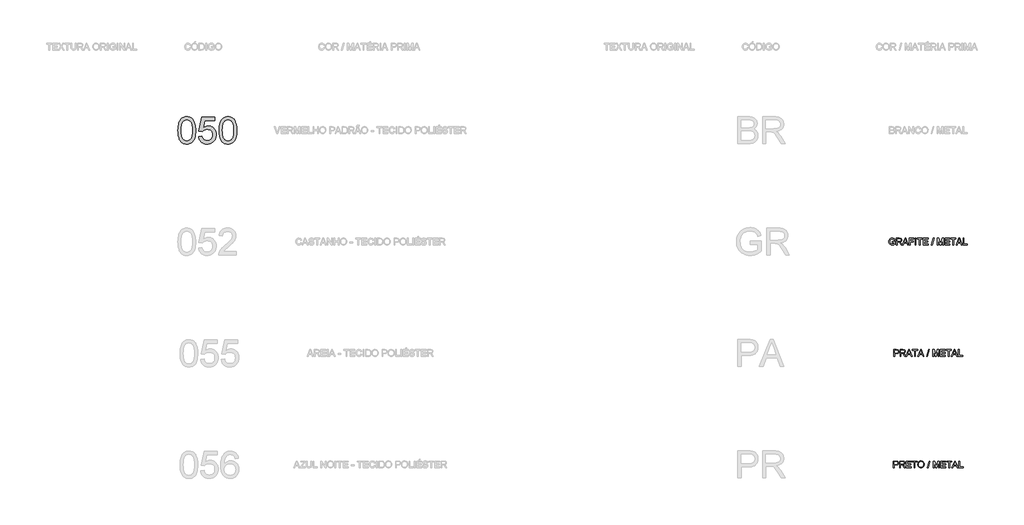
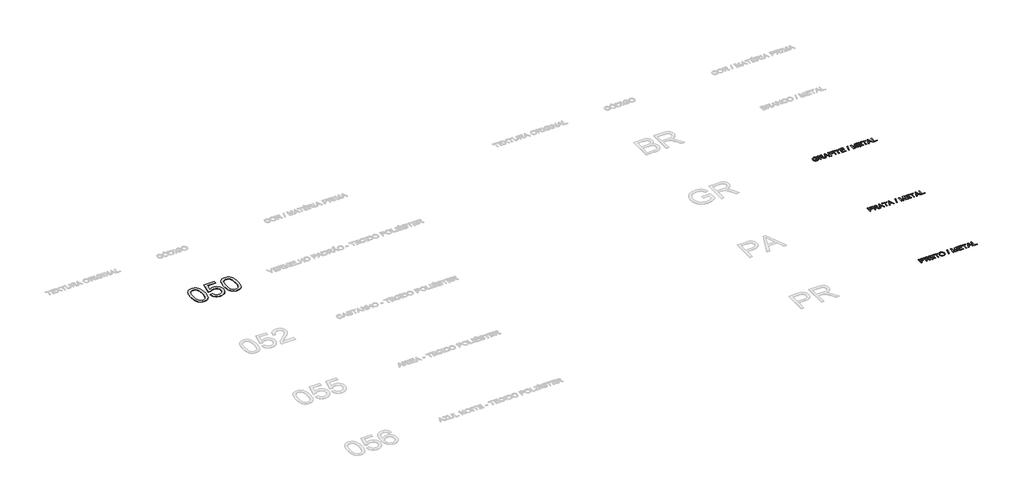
# One storey, part 53 of 67: 4 proxies.
"""IFC4 building model written with IfcOpenShell, lengths in millimetres."""

from ifc_helpers import new_model, si_unit, origin, origin_with_axes, place, context, project, spatial, polyline, outline, extrude, element, save

model = new_model("IFC4")

# Units and contexts
model_context = context("Model", 3, world=origin())
ifc_project = project(units=[si_unit("LENGTHUNIT", "METRE", prefix="MILLI")], contexts=[model_context])

# Site, building, storey
site = spatial("IfcSite", under=ifc_project)
building = spatial("IfcBuilding", under=site)
storey = spatial("IfcBuildingStorey", under=building, Name="Marelli - Linha COLAB - Planta Baixa", Elevation=0.0)

# Proxies
placement = place(None, origin())
element("IfcBuildingElementProxy", 1, Name="1200mm Arial", ObjectType="1200mm Arial", at=placement, inside=storey, context=model_context, shape_type="SweptSolid", body=[
    extrude(outline(polyline([(-228.2202746, -27387.5405438), (-225.4519626, -27286.1798571), (-217.1470265, -27194.5864374), (-203.3054665, -27112.7602846), (-183.9272824, -27040.7013988), (-159.0952477, -26977.8211688), (-128.8921359, -26923.5309833), (-93.317947, -26877.8308425), (-52.3726809, -26840.7207462), (-5.918382, -26812.0075565), (46.1829056, -26791.4981353), (103.9311818, -26779.1924825), (167.3264466, -26775.0905983), (214.967165, -26777.5186194), (260.1798622, -26784.8026829), (302.9645382, -26796.9427888), (343.3211931, -26813.938937), (380.2749395, -26835.5060189), (412.8508902, -26861.3589261), (441.0490451, -26891.4976586), (464.8694043, -26925.9222163), (485.5075843, -26964.4946435), (504.1592014, -27007.0769844), (535.5027474, -27104.2714076), (547.4773063, -27161.4310726), (556.0305627, -27227.6958169), (561.1625166, -27303.0656407), (562.8731678, -27387.5405438), (560.132447, -27488.2574371), (551.9102844, -27579.3910043), (538.2066801, -27660.9412456), (519.021634, -27732.9081609), (494.3827374, -27795.8159821), (464.3175813, -27850.188941), (428.8261658, -27896.0270376), (387.9084909, -27933.3302719), (341.3990097, -27962.2365997), (289.1321752, -27982.8839766), (231.1079875, -27995.2724028), (167.3264466, -27999.4018782), (124.6521352, -27997.6084535), (84.3322685, -27992.2281793), (46.3668466, -27983.2610557), (10.7558695, -27970.7070826), (-22.5006629, -27954.5662601), (-53.4027505, -27934.8385881), (-81.9503933, -27911.5240666), (-108.1435914, -27884.6226957), (-136.286564, -27842.0265592), (-160.6771403, -27793.8478134), (-181.3153202, -27740.0864583), (-198.2011038, -27680.742494), (-211.334491, -27615.8159204), (-220.7154819, -27545.3067375), (-226.3440764, -27469.2149453), (-228.2202746, -27387.5405438)]), holes=[polyline([(-77.5358094, -27387.2462382), (-73.1212254, -27518.2398197), (-59.8774736, -27624.2726077), (-49.9446597, -27667.9287043), (-37.8045539, -27705.3446024), (-23.4571561, -27736.5203023), (-6.9024663, -27761.4558037), (30.4743444, -27799.6327578), (71.9714335, -27826.9020107), (117.5888009, -27843.2635624), (167.3264466, -27848.717413), (217.0640924, -27843.2451683), (262.6814598, -27826.8284343), (304.1785488, -27799.4672109), (341.5553595, -27761.1614981), (358.1100493, -27736.1662158), (372.4574471, -27704.9583263), (384.597553, -27667.5378296), (394.5303668, -27623.9047257), (407.7741187, -27518.0006964), (412.1887026, -27387.2462382), (407.9212715, -27259.7199446), (395.118978, -27155.5541577), (385.517258, -27112.2314542), (373.7818223, -27074.7488774), (359.9126711, -27043.1064273), (343.9098043, -27017.3041039), (307.158393, -26977.2601487), (265.1830573, -26948.6573236), (217.9837974, -26931.4956285), (165.5606131, -26925.7750635), (116.0804847, -26930.8150468), (71.2356695, -26945.9349968), (31.0261674, -26971.1349135), (-4.5480215, -27006.4147968), (-21.6545343, -27034.9624397), (-36.4801787, -27068.954736), (-49.0249547, -27108.3916859), (-59.2888624, -27153.2732893), (-72.9740726, -27259.3704567), (-77.5358094, -27387.2462382)])]), origin_with_axes(), (0.0, 0.0, 1.0), 10.0),
    extrude(outline(polyline([(694.7220749, -27660.3618315), (845.4065401, -27641.5262733), (856.6637292, -27689.967135), (873.0712662, -27731.9884559), (894.6291511, -27767.590236), (921.3373839, -27796.7724753), (953.1407824, -27819.4983855), (989.9841642, -27835.7311786), (1031.8675294, -27845.4708544), (1078.7908779, -27848.717413), (1136.1804691, -27844.2016615), (1186.8010317, -27830.654407), (1230.6525655, -27808.0756496), (1267.7350706, -27776.4653891), (1297.2208125, -27737.3871242), (1318.2820567, -27692.4043532), (1330.9188033, -27641.5170763), (1335.1310521, -27584.7252933), (1331.1855177, -27531.0513102), (1319.3489145, -27483.3370154), (1299.6212425, -27441.5824089), (1272.0025017, -27405.7874908), (1236.4007217, -27377.0743011), (1192.7239318, -27356.5648798), (1140.9721321, -27344.2592271), (1081.1453226, -27340.1573429), (1042.858004, -27341.7944177), (1008.0471702, -27346.7056424), (976.7128213, -27354.8910168), (948.8549572, -27366.3505409), (901.5821208, -27396.4432881), (864.2420983, -27434.3351336), (713.5576331, -27415.4995755), (845.4065401, -26793.9261564), (1429.3088429, -26793.9261564), (1429.3088429, -26944.6106217), (967.2490569, -26944.6106217), (902.7961314, -27276.5873341), (955.9734738, -27238.4747594), (1010.4384032, -27211.2514918), (1066.1909195, -27194.9175312), (1123.2310229, -27189.4728776), (1160.6699137, -27191.1605363), (1196.6142839, -27196.2235123), (1231.0641335, -27204.6618055), (1264.0194624, -27216.4754161), (1295.4802708, -27231.664344), (1325.4465586, -27250.2285891), (1353.9183258, -27272.1681516), (1380.8955723, -27297.4830314), (1405.4861844, -27325.4512601), (1426.7980483, -27355.3508693), (1444.8311638, -27387.1818589), (1459.5855311, -27420.944229), (1471.0611501, -27456.6379796), (1479.2580208, -27494.2631106), (1484.1761432, -27533.8196222), (1485.8155173, -27575.3075142), (1479.9110113, -27653.3720736), (1472.5303788, -27690.3626082), (1462.1974933, -27725.9919794), (1448.9123547, -27760.2601873), (1432.6749631, -27793.1672317), (1413.4853186, -27824.7131128), (1391.343421, -27854.8978305), (1361.3426443, -27888.7659667), (1328.7299054, -27918.1183514), (1293.5052044, -27942.9549846), (1255.6685412, -27963.2758663), (1215.2199158, -27979.0809965), (1172.1593283, -27990.3703752), (1126.4867786, -27997.1440025), (1078.2022667, -27999.4018782), (1000.44121, -27993.5985397), (964.3818766, -27986.3443667), (930.20334, -27976.1885243), (897.9056001, -27963.1310128), (867.4886569, -27947.171832), (838.9525104, -27928.3109819), (812.2971606, -27906.5484626), (787.9594673, -27882.3901119), (766.3762905, -27856.3417673), (747.5476302, -27828.4034291), (731.4734862, -27798.5750971), (718.1538587, -27766.8567713), (707.5887477, -27733.2484518), (694.7220749, -27660.3618315)])), origin_with_axes(), (0.0, 0.0, 1.0), 10.0),
    extrude(outline(polyline([(1617.6644244, -27387.5405438), (1620.4327364, -27286.1798571), (1628.7376725, -27194.5864374), (1642.5792325, -27112.7602846), (1661.9574166, -27040.7013988), (1686.7894513, -26977.8211688), (1716.9925631, -26923.5309833), (1752.566752, -26877.8308425), (1793.5120181, -26840.7207462), (1839.966317, -26812.0075565), (1892.0676046, -26791.4981353), (1949.8158808, -26779.1924825), (2013.2111456, -26775.0905983), (2060.851864, -26777.5186194), (2106.0645612, -26784.8026829), (2148.8492372, -26796.9427888), (2189.2058921, -26813.938937), (2226.1596385, -26835.5060189), (2258.7355892, -26861.3589261), (2286.9337441, -26891.4976586), (2310.7541033, -26925.9222163), (2331.3922833, -26964.4946435), (2350.0439004, -27007.0769844), (2381.3874464, -27104.2714076), (2393.3620053, -27161.4310726), (2401.9152617, -27227.6958169), (2407.0472156, -27303.0656407), (2408.7578668, -27387.5405438), (2406.017146, -27488.2574371), (2397.7949834, -27579.3910043), (2384.0913791, -27660.9412456), (2364.906333, -27732.9081609), (2340.2674364, -27795.8159821), (2310.2022803, -27850.188941), (2274.7108648, -27896.0270376), (2233.7931899, -27933.3302719), (2187.2837087, -27962.2365997), (2135.0168742, -27982.8839766), (2076.9926865, -27995.2724028), (2013.2111456, -27999.4018782), (1970.5368342, -27997.6084535), (1930.2169675, -27992.2281793), (1892.2515456, -27983.2610557), (1856.6405685, -27970.7070826), (1823.3840361, -27954.5662601), (1792.4819485, -27934.8385881), (1763.9343057, -27911.5240666), (1737.7411076, -27884.6226957), (1709.598135, -27842.0265592), (1685.2075587, -27793.8478134), (1664.5693788, -27740.0864583), (1647.6835952, -27680.742494), (1634.550208, -27615.8159204), (1625.1692171, -27545.3067375), (1619.5406226, -27469.2149453), (1617.6644244, -27387.5405438)]), holes=[polyline([(1768.3488896, -27387.2462382), (1772.7634736, -27518.2398197), (1786.0072254, -27624.2726077), (1795.9400393, -27667.9287043), (1808.0801451, -27705.3446024), (1822.4275429, -27736.5203023), (1838.9822327, -27761.4558037), (1876.3590434, -27799.6327578), (1917.8561325, -27826.9020107), (1963.4734999, -27843.2635624), (2013.2111456, -27848.717413), (2062.9487914, -27843.2451683), (2108.5661588, -27826.8284343), (2150.0632478, -27799.4672109), (2187.4400585, -27761.1614981), (2203.9947483, -27736.1662158), (2218.3421461, -27704.9583263), (2230.482252, -27667.5378296), (2240.4150658, -27623.9047257), (2253.6588177, -27518.0006964), (2258.0734016, -27387.2462382), (2253.8059705, -27259.7199446), (2241.003677, -27155.5541577), (2231.401957, -27112.2314542), (2219.6665213, -27074.7488774), (2205.7973701, -27043.1064273), (2189.7945033, -27017.3041039), (2153.043092, -26977.2601487), (2111.0677563, -26948.6573236), (2063.8684964, -26931.4956285), (2011.4453121, -26925.7750635), (1961.9651837, -26930.8150468), (1917.1203685, -26945.9349968), (1876.9108664, -26971.1349135), (1841.3366775, -27006.4147968), (1824.2301647, -27034.9624397), (1809.4045203, -27068.954736), (1796.8597443, -27108.3916859), (1786.5958366, -27153.2732893), (1772.9106264, -27259.3704567), (1768.3488896, -27387.2462382)])]), origin_with_axes(), (0.0, 0.0, 1.0), 10.0),
])
element("IfcBuildingElementProxy", 2, Name="300mm Arial", ObjectType="300mm Arial", at=placement, inside=storey, context=model_context, shape_type="SweptSolid", body=[
    extrude(outline(polyline([(31803.2452164, -32412.8440816), (31803.2452164, -32375.1729653), (31925.6763444, -32375.1729653), (31925.6763444, -32487.8184322), (31895.923888, -32508.5117945), (31865.2333325, -32523.355833), (31833.6782544, -32532.2953654), (31801.33223, -32535.2752096), (31759.0717858, -32530.5387289), (31720.8764376, -32516.3292869), (31689.1466156, -32493.1435241), (31666.2827496, -32461.4780814), (31652.4595836, -32423.4942654), (31647.8518616, -32381.3533828), (31652.4411895, -32338.9089976), (31666.2091732, -32299.4260625), (31688.5855955, -32266.3074859), (31719.0002395, -32242.9561762), (31756.0459564, -32229.1054191), (31798.3155976, -32224.4885001), (31829.3464439, -32227.1648416), (31857.2502932, -32235.1938661), (31880.7487557, -32247.9961596), (31898.5634413, -32264.9923077), (31911.7428138, -32287.0008481), (31921.3353368, -32314.8403181), (31886.6072765, -32324.6259792), (31878.8541634, -32304.7695485), (31869.4271873, -32289.7875542), (31856.9559877, -32278.493577), (31840.0702041, -32269.7011973), (31819.9378619, -32264.0450116), (31797.7269864, -32262.1596164), (31771.7269264, -32264.1921644), (31749.4976569, -32270.2898085), (31731.1219512, -32279.6891935), (31716.6825829, -32291.6269642), (31697.2952017, -32320.6528536), (31688.4660339, -32349.0901318), (31685.5229779, -32379.8082784), (31689.0638421, -32415.8331228), (31699.6864347, -32445.4752146), (31717.068859, -32468.5230216), (31740.8892182, -32484.7650117), (31768.7654764, -32494.3943229), (31798.3155976, -32497.6040933), (31824.4076281, -32495.1852692), (31849.8558651, -32487.9287968), (31871.956376, -32477.9316036), (31888.005228, -32467.2906169), (31888.005228, -32412.8440816), (31803.2452164, -32412.8440816)])), origin_with_axes(), (0.0, 0.0, 1.0), 10.0),
    extrude(outline(polyline([(31986.8919083, -32530.5663201), (31986.8919083, -32229.1973896), (32116.7542526, -32229.1973896), (32151.6570569, -32231.2299376), (32177.0501117, -32237.3275817), (32195.6097583, -32248.5847708), (32210.0123384, -32266.0959537), (32219.2553736, -32287.8101885), (32222.3363853, -32311.6765329), (32217.2320226, -32341.3646099), (32201.9189345, -32365.9759154), (32190.3191554, -32376.0052983), (32175.9372686, -32384.0205273), (32138.8271724, -32394.0085235), (32160.2379045, -32410.1217548), (32190.7721101, -32448.8965171), (32241.0247906, -32530.5663201), (32197.2468332, -32530.5663201), (32158.0306125, -32468.0999573), (32129.7036989, -32426.750021), (32109.8012829, -32407.2154871), (32091.8854298, -32400.0417882), (32070.0332393, -32398.717413), (32024.5630247, -32398.717413), (32024.5630247, -32530.5663201), (31986.8919083, -32530.5663201)]), holes=[polyline([(32024.5630247, -32361.0462967), (32108.8815779, -32361.0462967), (32133.0974103, -32359.7127245), (32151.8869832, -32355.7120078), (32166.0320459, -32348.7774322), (32176.3143477, -32338.6422832), (32182.5775386, -32326.3826157), (32184.665269, -32313.0744845), (32180.6829464, -32294.6987789), (32168.7359786, -32279.8915286), (32148.1805721, -32270.1242616), (32118.3729334, -32266.8685059), (32024.5630247, -32266.8685059), (32024.5630247, -32361.0462967)])]), origin_with_axes(), (0.0, 0.0, 1.0), 10.0),
    extrude(outline(polyline([(32253.1648965, -32530.5663201), (32373.4623089, -32229.1973896), (32405.5416189, -32229.1973896), (32525.8390313, -32530.5663201), (32486.0341994, -32530.5663201), (32451.5268683, -32436.3885293), (32327.4034831, -32436.3885293), (32292.9697283, -32530.5663201), (32253.1648965, -32530.5663201)]), holes=[polyline([(32341.2358461, -32398.717413), (32437.7680816, -32398.717413), (32410.6183904, -32324.6259792), (32389.5019639, -32266.8685059), (32370.7399821, -32318.1512561), (32341.2358461, -32398.717413)])]), origin_with_axes(), (0.0, 0.0, 1.0), 10.0),
    extrude(outline(polyline([(32566.0853216, -32530.5663201), (32566.0853216, -32229.1973896), (32768.5675717, -32229.1973896), (32768.5675717, -32266.8685059), (32603.7564379, -32266.8685059), (32603.7564379, -32356.3374072), (32745.023124, -32356.3374072), (32745.023124, -32394.0085235), (32603.7564379, -32394.0085235), (32603.7564379, -32530.5663201), (32566.0853216, -32530.5663201)])), origin_with_axes(), (0.0, 0.0, 1.0), 10.0),
    extrude(outline(polyline([(32825.0742462, -32530.5663201), (32825.0742462, -32229.1973896), (32862.7453625, -32229.1973896), (32862.7453625, -32530.5663201), (32825.0742462, -32530.5663201)])), origin_with_axes(), (0.0, 0.0, 1.0), 10.0),
    extrude(outline(polyline([(33013.4298277, -32530.5663201), (33013.4298277, -32266.8685059), (32914.5431474, -32266.8685059), (32914.5431474, -32229.1973896), (33149.9876243, -32229.1973896), (33149.9876243, -32266.8685059), (33051.100944, -32266.8685059), (33051.100944, -32530.5663201), (33013.4298277, -32530.5663201)])), origin_with_axes(), (0.0, 0.0, 1.0), 10.0),
    extrude(outline(polyline([(33192.3676301, -32530.5663201), (33192.3676301, -32229.1973896), (33408.9765489, -32229.1973896), (33408.9765489, -32266.8685059), (33230.0387465, -32266.8685059), (33230.0387465, -32356.3374072), (33399.5587698, -32356.3374072), (33399.5587698, -32394.0085235), (33230.0387465, -32394.0085235), (33230.0387465, -32492.8952038), (33413.6854384, -32492.8952038), (33413.6854384, -32530.5663201), (33192.3676301, -32530.5663201)])), origin_with_axes(), (0.0, 0.0, 1.0), 10.0),
    extrude(outline(polyline([(33554.9521246, -32530.5663201), (33639.7121363, -32229.1973896), (33673.7044326, -32229.1973896), (33588.9444209, -32530.5663201), (33554.9521246, -32530.5663201)])), origin_with_axes(), (0.0, 0.0, 1.0), 10.0),
    extrude(outline(polyline([(33823.3588283, -32530.5663201), (33823.3588283, -32229.1973896), (33888.1796358, -32229.1973896), (33949.8366582, -32441.6124536), (33962.2710696, -32485.9790223), (33975.7355507, -32437.9336337), (34036.3625035, -32229.1973896), (34101.183311, -32229.1973896), (34101.183311, -32530.5663201), (34063.5121947, -32530.5663201), (34063.5121947, -32266.8685059), (33987.8020801, -32530.5663201), (33936.7400592, -32530.5663201), (33861.0299446, -32266.8685059), (33861.0299446, -32530.5663201), (33823.3588283, -32530.5663201)])), origin_with_axes(), (0.0, 0.0, 1.0), 10.0),
    extrude(outline(polyline([(34167.1077646, -32530.5663201), (34167.1077646, -32229.1973896), (34383.7166833, -32229.1973896), (34383.7166833, -32266.8685059), (34204.7788809, -32266.8685059), (34204.7788809, -32356.3374072), (34374.2989042, -32356.3374072), (34374.2989042, -32394.0085235), (34204.7788809, -32394.0085235), (34204.7788809, -32492.8952038), (34388.4255729, -32492.8952038), (34388.4255729, -32530.5663201), (34167.1077646, -32530.5663201)])), origin_with_axes(), (0.0, 0.0, 1.0), 10.0),
    extrude(outline(polyline([(34520.2744799, -32530.5663201), (34520.2744799, -32266.8685059), (34421.3877996, -32266.8685059), (34421.3877996, -32229.1973896), (34656.8322765, -32229.1973896), (34656.8322765, -32266.8685059), (34557.9455962, -32266.8685059), (34557.9455962, -32530.5663201), (34520.2744799, -32530.5663201)])), origin_with_axes(), (0.0, 0.0, 1.0), 10.0),
    extrude(outline(polyline([(34664.11634, -32530.5663201), (34784.4137525, -32229.1973896), (34816.4930625, -32229.1973896), (34936.7904749, -32530.5663201), (34896.985643, -32530.5663201), (34862.4783118, -32436.3885293), (34738.3549267, -32436.3885293), (34703.9211719, -32530.5663201), (34664.11634, -32530.5663201)]), holes=[polyline([(34752.1872897, -32398.717413), (34848.7195252, -32398.717413), (34821.569834, -32324.6259792), (34800.4534075, -32266.8685059), (34781.6914257, -32318.1512561), (34752.1872897, -32398.717413)])]), origin_with_axes(), (0.0, 0.0, 1.0), 10.0),
    extrude(outline(polyline([(34977.0367651, -32530.5663201), (34977.0367651, -32229.1973896), (35014.7078815, -32229.1973896), (35014.7078815, -32492.8952038), (35165.3923467, -32492.8952038), (35165.3923467, -32530.5663201), (34977.0367651, -32530.5663201)])), origin_with_axes(), (0.0, 0.0, 1.0), 10.0),
])
element("IfcBuildingElementProxy", 3, Name="300mm Arial", ObjectType="300mm Arial", at=placement, inside=storey, context=model_context, shape_type="SweptSolid", body=[
    extrude(outline(polyline([(31871.5241147, -37530.5663201), (31871.5241147, -37229.1973896), (31983.2130884, -37229.1973896), (32028.2418446, -37232.0668692), (32048.3190045, -37237.4287493), (32064.8461031, -37246.1567496), (32078.1542343, -37258.6463433), (32088.5744918, -37275.2930036), (32095.3067323, -37294.9287051), (32097.5508125, -37316.3854225), (32096.0355985, -37334.8852883), (32091.4899566, -37351.9044291), (32083.9138868, -37367.4428449), (32073.307389, -37381.5005356), (32058.7461598, -37393.1531978), (32039.3058956, -37401.476528), (32014.9865965, -37406.470526), (31985.7882624, -37408.1351921), (31909.195231, -37408.1351921), (31909.195231, -37530.5663201), (31871.5241147, -37530.5663201)]), holes=[polyline([(31909.195231, -37370.4640758), (31987.9955543, -37370.4640758), (32021.3992395, -37367.005985), (32043.4721592, -37356.6317127), (32055.7778119, -37339.9850525), (32059.8796962, -37317.7097977), (32057.4608721, -37300.7872259), (32050.2043997, -37286.5134045), (32039.01159, -37275.7712502), (32024.7837539, -37269.4436799), (31987.1126375, -37266.8685059), (31909.195231, -37266.8685059), (31909.195231, -37370.4640758)])]), origin_with_axes(), (0.0, 0.0, 1.0), 10.0),
    extrude(outline(polyline([(32149.3485974, -37530.5663201), (32149.3485974, -37229.1973896), (32279.2109417, -37229.1973896), (32314.113746, -37231.2299376), (32339.5068007, -37237.3275817), (32358.0664474, -37248.5847708), (32372.4690275, -37266.0959537), (32381.7120626, -37287.8101885), (32384.7930743, -37311.6765329), (32379.6887116, -37341.3646099), (32364.3756236, -37365.9759154), (32352.7758444, -37376.0052983), (32338.3939577, -37384.0205273), (32301.2838614, -37394.0085235), (32322.6945935, -37410.1217548), (32353.2287991, -37448.8965171), (32403.4814797, -37530.5663201), (32359.7035223, -37530.5663201), (32320.4873016, -37468.0999573), (32292.1603879, -37426.750021), (32272.257972, -37407.2154871), (32254.3421188, -37400.0417882), (32232.4899283, -37398.717413), (32187.0197137, -37398.717413), (32187.0197137, -37530.5663201), (32149.3485974, -37530.5663201)]), holes=[polyline([(32187.0197137, -37361.0462967), (32271.338267, -37361.0462967), (32295.5540994, -37359.7127245), (32314.3436723, -37355.7120078), (32328.488735, -37348.7774322), (32338.7710367, -37338.6422832), (32345.0342277, -37326.3826157), (32347.121958, -37313.0744845), (32343.1396354, -37294.6987789), (32331.1926676, -37279.8915286), (32310.6372612, -37270.1242616), (32280.8296225, -37266.8685059), (32187.0197137, -37266.8685059), (32187.0197137, -37361.0462967)])]), origin_with_axes(), (0.0, 0.0, 1.0), 10.0),
    extrude(outline(polyline([(32415.6215855, -37530.5663201), (32535.918998, -37229.1973896), (32567.9983079, -37229.1973896), (32688.2957204, -37530.5663201), (32648.4908885, -37530.5663201), (32613.9835573, -37436.3885293), (32489.8601722, -37436.3885293), (32455.4264174, -37530.5663201), (32415.6215855, -37530.5663201)]), holes=[polyline([(32503.6925352, -37398.717413), (32600.2247707, -37398.717413), (32573.0750795, -37324.6259792), (32551.9586529, -37266.8685059), (32533.1966712, -37318.1512561), (32503.6925352, -37398.717413)])]), origin_with_axes(), (0.0, 0.0, 1.0), 10.0),
    extrude(outline(polyline([(32803.8842432, -37530.5663201), (32803.8842432, -37266.8685059), (32704.9975629, -37266.8685059), (32704.9975629, -37229.1973896), (32940.4420398, -37229.1973896), (32940.4420398, -37266.8685059), (32841.5553595, -37266.8685059), (32841.5553595, -37530.5663201), (32803.8842432, -37530.5663201)])), origin_with_axes(), (0.0, 0.0, 1.0), 10.0),
    extrude(outline(polyline([(32947.7261034, -37530.5663201), (33068.0235158, -37229.1973896), (33100.1028258, -37229.1973896), (33220.4002382, -37530.5663201), (33180.5954063, -37530.5663201), (33146.0880752, -37436.3885293), (33021.96469, -37436.3885293), (32987.5309352, -37530.5663201), (32947.7261034, -37530.5663201)]), holes=[polyline([(33035.797053, -37398.717413), (33132.3292885, -37398.717413), (33105.1795973, -37324.6259792), (33084.0631708, -37266.8685059), (33065.301189, -37318.1512561), (33035.797053, -37398.717413)])]), origin_with_axes(), (0.0, 0.0, 1.0), 10.0),
    extrude(outline(polyline([(33345.4065401, -37530.5663201), (33430.1665518, -37229.1973896), (33464.1588482, -37229.1973896), (33379.3988365, -37530.5663201), (33345.4065401, -37530.5663201)])), origin_with_axes(), (0.0, 0.0, 1.0), 10.0),
    extrude(outline(polyline([(33613.8132438, -37530.5663201), (33613.8132438, -37229.1973896), (33678.6340514, -37229.1973896), (33740.2910738, -37441.6124536), (33752.7254852, -37485.9790223), (33766.1899662, -37437.9336337), (33826.816919, -37229.1973896), (33891.6377266, -37229.1973896), (33891.6377266, -37530.5663201), (33853.9666103, -37530.5663201), (33853.9666103, -37266.8685059), (33778.2564957, -37530.5663201), (33727.1944747, -37530.5663201), (33651.4843601, -37266.8685059), (33651.4843601, -37530.5663201), (33613.8132438, -37530.5663201)])), origin_with_axes(), (0.0, 0.0, 1.0), 10.0),
    extrude(outline(polyline([(33957.5621801, -37530.5663201), (33957.5621801, -37229.1973896), (34174.1710989, -37229.1973896), (34174.1710989, -37266.8685059), (33995.2332964, -37266.8685059), (33995.2332964, -37356.3374072), (34164.7533198, -37356.3374072), (34164.7533198, -37394.0085235), (33995.2332964, -37394.0085235), (33995.2332964, -37492.8952038), (34178.8799884, -37492.8952038), (34178.8799884, -37530.5663201), (33957.5621801, -37530.5663201)])), origin_with_axes(), (0.0, 0.0, 1.0), 10.0),
    extrude(outline(polyline([(34310.7288955, -37530.5663201), (34310.7288955, -37266.8685059), (34211.8422152, -37266.8685059), (34211.8422152, -37229.1973896), (34447.2866921, -37229.1973896), (34447.2866921, -37266.8685059), (34348.4000118, -37266.8685059), (34348.4000118, -37530.5663201), (34310.7288955, -37530.5663201)])), origin_with_axes(), (0.0, 0.0, 1.0), 10.0),
    extrude(outline(polyline([(34454.5707556, -37530.5663201), (34574.868168, -37229.1973896), (34606.947478, -37229.1973896), (34727.2448904, -37530.5663201), (34687.4400585, -37530.5663201), (34652.9327274, -37436.3885293), (34528.8093422, -37436.3885293), (34494.3755875, -37530.5663201), (34454.5707556, -37530.5663201)]), holes=[polyline([(34542.6417052, -37398.717413), (34639.1739408, -37398.717413), (34612.0242495, -37324.6259792), (34590.907823, -37266.8685059), (34572.1458413, -37318.1512561), (34542.6417052, -37398.717413)])]), origin_with_axes(), (0.0, 0.0, 1.0), 10.0),
    extrude(outline(polyline([(34767.4911807, -37530.5663201), (34767.4911807, -37229.1973896), (34805.162297, -37229.1973896), (34805.162297, -37492.8952038), (34955.8467622, -37492.8952038), (34955.8467622, -37530.5663201), (34767.4911807, -37530.5663201)])), origin_with_axes(), (0.0, 0.0, 1.0), 10.0),
])
element("IfcBuildingElementProxy", 4, Name="300mm Arial", ObjectType="300mm Arial", at=placement, inside=storey, context=model_context, shape_type="SweptSolid", body=[
    extrude(outline(polyline([(31847.979667, -42530.5663201), (31847.979667, -42229.1973896), (31959.6686407, -42229.1973896), (32004.6973969, -42232.0668692), (32024.7745568, -42237.4287493), (32041.3016554, -42246.1567496), (32054.6097866, -42258.6463433), (32065.0300441, -42275.2930036), (32071.7622846, -42294.9287051), (32074.0063648, -42316.3854225), (32072.4911508, -42334.8852883), (32067.9455089, -42351.9044291), (32060.3694391, -42367.4428449), (32049.7629413, -42381.5005356), (32035.2017121, -42393.1531978), (32015.7614479, -42401.476528), (31991.4421488, -42406.470526), (31962.2438147, -42408.1351921), (31885.6507833, -42408.1351921), (31885.6507833, -42530.5663201), (31847.979667, -42530.5663201)]), holes=[polyline([(31885.6507833, -42370.4640758), (31964.4511066, -42370.4640758), (31997.8547918, -42367.005985), (32019.9277115, -42356.6317127), (32032.2333643, -42339.9850525), (32036.3352485, -42317.7097977), (32033.9164244, -42300.7872259), (32026.659952, -42286.5134045), (32015.4671423, -42275.7712502), (32001.2393062, -42269.4436799), (31963.5681899, -42266.8685059), (31885.6507833, -42266.8685059), (31885.6507833, -42370.4640758)])]), origin_with_axes(), (0.0, 0.0, 1.0), 10.0),
    extrude(outline(polyline([(32125.8041497, -42530.5663201), (32125.8041497, -42229.1973896), (32255.666494, -42229.1973896), (32290.5692983, -42231.2299376), (32315.962353, -42237.3275817), (32334.5219997, -42248.5847708), (32348.9245798, -42266.0959537), (32358.1676149, -42287.8101885), (32361.2486266, -42311.6765329), (32356.144264, -42341.3646099), (32340.8311759, -42365.9759154), (32329.2313967, -42376.0052983), (32314.84951, -42384.0205273), (32277.7394137, -42394.0085235), (32299.1501459, -42410.1217548), (32329.6843515, -42448.8965171), (32379.937032, -42530.5663201), (32336.1590746, -42530.5663201), (32296.9428539, -42468.0999573), (32268.6159403, -42426.750021), (32248.7135243, -42407.2154871), (32230.7976712, -42400.0417882), (32208.9454806, -42398.717413), (32163.475266, -42398.717413), (32163.475266, -42530.5663201), (32125.8041497, -42530.5663201)]), holes=[polyline([(32163.475266, -42361.0462967), (32247.7938193, -42361.0462967), (32272.0096517, -42359.7127245), (32290.7992246, -42355.7120078), (32304.9442873, -42348.7774322), (32315.226589, -42338.6422832), (32321.48978, -42326.3826157), (32323.5775103, -42313.0744845), (32319.5951877, -42294.6987789), (32307.6482199, -42279.8915286), (32287.0928135, -42270.1242616), (32257.2851748, -42266.8685059), (32163.475266, -42266.8685059), (32163.475266, -42361.0462967)])]), origin_with_axes(), (0.0, 0.0, 1.0), 10.0),
    extrude(outline(polyline([(32427.1730802, -42530.5663201), (32427.1730802, -42229.1973896), (32643.7819989, -42229.1973896), (32643.7819989, -42266.8685059), (32464.8441965, -42266.8685059), (32464.8441965, -42356.3374072), (32634.3642199, -42356.3374072), (32634.3642199, -42394.0085235), (32464.8441965, -42394.0085235), (32464.8441965, -42492.8952038), (32648.4908885, -42492.8952038), (32648.4908885, -42530.5663201), (32427.1730802, -42530.5663201)])), origin_with_axes(), (0.0, 0.0, 1.0), 10.0),
    extrude(outline(polyline([(32780.3397955, -42530.5663201), (32780.3397955, -42266.8685059), (32681.4531152, -42266.8685059), (32681.4531152, -42229.1973896), (32916.8975922, -42229.1973896), (32916.8975922, -42266.8685059), (32818.0109119, -42266.8685059), (32818.0109119, -42530.5663201), (32780.3397955, -42530.5663201)])), origin_with_axes(), (0.0, 0.0, 1.0), 10.0),
    extrude(outline(polyline([(32945.1509294, -42383.8549804), (32947.661724, -42348.5061192), (32955.1941079, -42317.213157), (32967.7480809, -42289.9760937), (32985.3236433, -42266.7949295), (33006.8677326, -42248.2858666), (33031.3272868, -42235.0651074), (33058.7023057, -42227.1326519), (33088.9927895, -42224.4885001), (33128.5217099, -42229.454907), (33163.9671401, -42244.3541278), (33193.3976997, -42268.1376988), (33214.8820082, -42299.7571563), (33228.0153955, -42337.68579), (33232.3931912, -42380.3968896), (33227.7854692, -42423.6782064), (33213.9623033, -42462.140269), (33191.6870485, -42493.8149087), (33161.7230599, -42516.733957), (33126.5811324, -42530.6398965), (33088.7720603, -42535.2752096), (33048.6361346, -42530.1524528), (33012.9883693, -42514.7841825), (32983.6313861, -42490.5591531), (32962.3678068, -42458.8661192), (32949.4551487, -42422.3998164), (32945.1509294, -42383.8549804)]), holes=[polyline([(32982.8220457, -42384.2228624), (32984.7051417, -42409.1974513), (32990.3544295, -42431.3669401), (32999.7699094, -42450.7313286), (33012.9515811, -42467.2906169), (33028.9751412, -42480.5527628), (33046.9162863, -42490.0257242), (33066.7750163, -42495.709501), (33088.5513311, -42497.6040933), (33110.7001265, -42495.6911069), (33130.7933812, -42489.9521478), (33148.8310953, -42480.3872159), (33164.8132687, -42466.9963113), (33177.8983714, -42450.0875351), (33187.2448734, -42429.9689885), (33192.8527745, -42406.6406715), (33194.7220749, -42380.102584), (33191.5215016, -42346.7540812), (33181.9197815, -42317.9305269), (33166.165235, -42294.358488), (33144.5061826, -42276.7645316), (33118.3773639, -42265.8108452), (33089.2135187, -42262.1596164), (33068.1936612, -42263.9185522), (33048.6913169, -42269.1953595), (33030.7064859, -42277.9900385), (33014.2391681, -42290.302589), (33000.494177, -42306.7262208), (32990.6763263, -42327.8541437), (32984.7856158, -42353.6863575), (32982.8220457, -42384.2228624)])]), origin_with_axes(), (0.0, 0.0, 1.0), 10.0),
    extrude(outline(polyline([(33368.9509878, -42530.5663201), (33453.7109995, -42229.1973896), (33487.7032959, -42229.1973896), (33402.9432842, -42530.5663201), (33368.9509878, -42530.5663201)])), origin_with_axes(), (0.0, 0.0, 1.0), 10.0),
    extrude(outline(polyline([(33637.3576915, -42530.5663201), (33637.3576915, -42229.1973896), (33702.1784991, -42229.1973896), (33763.8355215, -42441.6124536), (33776.2699329, -42485.9790223), (33789.7344139, -42437.9336337), (33850.3613667, -42229.1973896), (33915.1821743, -42229.1973896), (33915.1821743, -42530.5663201), (33877.511058, -42530.5663201), (33877.511058, -42266.8685059), (33801.8009434, -42530.5663201), (33750.7389224, -42530.5663201), (33675.0288078, -42266.8685059), (33675.0288078, -42530.5663201), (33637.3576915, -42530.5663201)])), origin_with_axes(), (0.0, 0.0, 1.0), 10.0),
    extrude(outline(polyline([(33981.1066278, -42530.5663201), (33981.1066278, -42229.1973896), (34197.7155466, -42229.1973896), (34197.7155466, -42266.8685059), (34018.7777441, -42266.8685059), (34018.7777441, -42356.3374072), (34188.2977675, -42356.3374072), (34188.2977675, -42394.0085235), (34018.7777441, -42394.0085235), (34018.7777441, -42492.8952038), (34202.4244361, -42492.8952038), (34202.4244361, -42530.5663201), (33981.1066278, -42530.5663201)])), origin_with_axes(), (0.0, 0.0, 1.0), 10.0),
    extrude(outline(polyline([(34334.2733432, -42530.5663201), (34334.2733432, -42266.8685059), (34235.3866629, -42266.8685059), (34235.3866629, -42229.1973896), (34470.8311398, -42229.1973896), (34470.8311398, -42266.8685059), (34371.9444595, -42266.8685059), (34371.9444595, -42530.5663201), (34334.2733432, -42530.5663201)])), origin_with_axes(), (0.0, 0.0, 1.0), 10.0),
    extrude(outline(polyline([(34478.1152033, -42530.5663201), (34598.4126157, -42229.1973896), (34630.4919257, -42229.1973896), (34750.7893381, -42530.5663201), (34710.9845062, -42530.5663201), (34676.4771751, -42436.3885293), (34552.3537899, -42436.3885293), (34517.9200352, -42530.5663201), (34478.1152033, -42530.5663201)]), holes=[polyline([(34566.1861529, -42398.717413), (34662.7183885, -42398.717413), (34635.5686972, -42324.6259792), (34614.4522707, -42266.8685059), (34595.6902889, -42318.1512561), (34566.1861529, -42398.717413)])]), origin_with_axes(), (0.0, 0.0, 1.0), 10.0),
    extrude(outline(polyline([(34791.0356284, -42530.5663201), (34791.0356284, -42229.1973896), (34828.7067447, -42229.1973896), (34828.7067447, -42492.8952038), (34979.3912099, -42492.8952038), (34979.3912099, -42530.5663201), (34791.0356284, -42530.5663201)])), origin_with_axes(), (0.0, 0.0, 1.0), 10.0),
])

save(model, "model.ifc")
